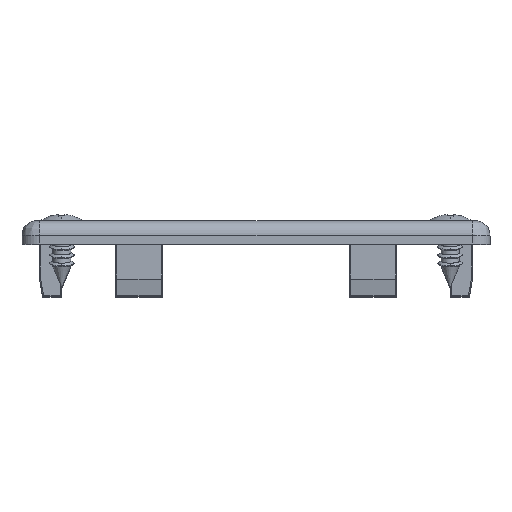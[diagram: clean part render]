
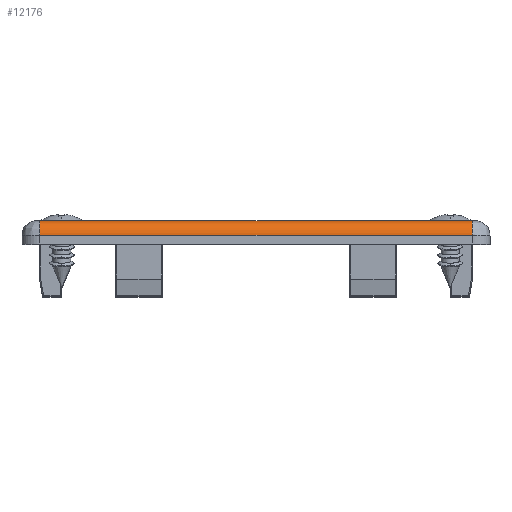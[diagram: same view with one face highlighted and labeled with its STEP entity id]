
A CAD part, top view. The second image highlights one B-rep face of the part: STEP entity #12176.
In plain terms, the highlighted cylindrical face has radius 2.5 mm (diameter 5 mm), a partial arc.
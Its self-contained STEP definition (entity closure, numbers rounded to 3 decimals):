
#140 = AXIS2_PLACEMENT_3D ( 'NONE', #5388, #12127, #6486 ) ;
#298 = CYLINDRICAL_SURFACE ( 'NONE', #4152, 2.5 ) ;
#495 = DIRECTION ( 'NONE',  ( 0., 1., 0. ) ) ;
#551 = FACE_OUTER_BOUND ( 'NONE', #11092, .T. ) ;
#682 = VECTOR ( 'NONE', #12308, 1000. ) ;
#738 = LINE ( 'NONE', #11390, #682 ) ;
#1040 = CIRCLE ( 'NONE', #11315, 2.5 ) ;
#1068 = CIRCLE ( 'NONE', #140, 2.5 ) ;
#1385 = VERTEX_POINT ( 'NONE', #11241 ) ;
#1682 = DIRECTION ( 'NONE',  ( 1., 0., 0. ) ) ;
#1996 = CARTESIAN_POINT ( 'NONE',  ( 57., 17.5, 0. ) ) ;
#2103 = ORIENTED_EDGE ( 'NONE', *, *, #3083, .T. ) ;
#2869 = CARTESIAN_POINT ( 'NONE',  ( 60., 17.5, 2.5 ) ) ;
#3083 = EDGE_CURVE ( 'NONE', #3965, #1385, #4955, .T. ) ;
#3272 = CARTESIAN_POINT ( 'NONE',  ( -17., 20., 2.5 ) ) ;
#3466 = VERTEX_POINT ( 'NONE', #1996 ) ;
#3965 = VERTEX_POINT ( 'NONE', #3272 ) ;
#4152 = AXIS2_PLACEMENT_3D ( 'NONE', #2869, #1682, #495 ) ;
#4955 = LINE ( 'NONE', #7821, #13140 ) ;
#5388 = CARTESIAN_POINT ( 'NONE',  ( -17., 17.5, 2.5 ) ) ;
#5491 = CARTESIAN_POINT ( 'NONE',  ( 57., 17.5, 2.5 ) ) ;
#6039 = VERTEX_POINT ( 'NONE', #13087 ) ;
#6486 = DIRECTION ( 'NONE',  ( 0., 1., 0. ) ) ;
#6577 = DIRECTION ( 'NONE',  ( 0., 1., 0. ) ) ;
#7030 = EDGE_CURVE ( 'NONE', #6039, #3965, #1068, .T. ) ;
#7061 = EDGE_CURVE ( 'NONE', #1385, #3466, #1040, .T. ) ;
#7129 = EDGE_CURVE ( 'NONE', #6039, #3466, #738, .T. ) ;
#7821 = CARTESIAN_POINT ( 'NONE',  ( 60., 20., 2.5 ) ) ;
#8066 = DIRECTION ( 'NONE',  ( 1., 0., 0. ) ) ;
#9326 = ORIENTED_EDGE ( 'NONE', *, *, #7061, .T. ) ;
#10470 = ORIENTED_EDGE ( 'NONE', *, *, #7129, .F. ) ;
#11092 = EDGE_LOOP ( 'NONE', ( #9326, #10470, #11270, #2103 ) ) ;
#11241 = CARTESIAN_POINT ( 'NONE',  ( 57., 20., 2.5 ) ) ;
#11270 = ORIENTED_EDGE ( 'NONE', *, *, #7030, .T. ) ;
#11315 = AXIS2_PLACEMENT_3D ( 'NONE', #5491, #12204, #6577 ) ;
#11390 = CARTESIAN_POINT ( 'NONE',  ( 60., 17.5, 0. ) ) ;
#12127 = DIRECTION ( 'NONE',  ( 1., 0., 0. ) ) ;
#12176 = ADVANCED_FACE ( 'NONE', ( #551 ), #298, .T. ) ;
#12204 = DIRECTION ( 'NONE',  ( -1., 0., 0. ) ) ;
#12308 = DIRECTION ( 'NONE',  ( 1., 0., 0. ) ) ;
#13087 = CARTESIAN_POINT ( 'NONE',  ( -17., 17.5, 0. ) ) ;
#13140 = VECTOR ( 'NONE', #8066, 1000. ) ;
